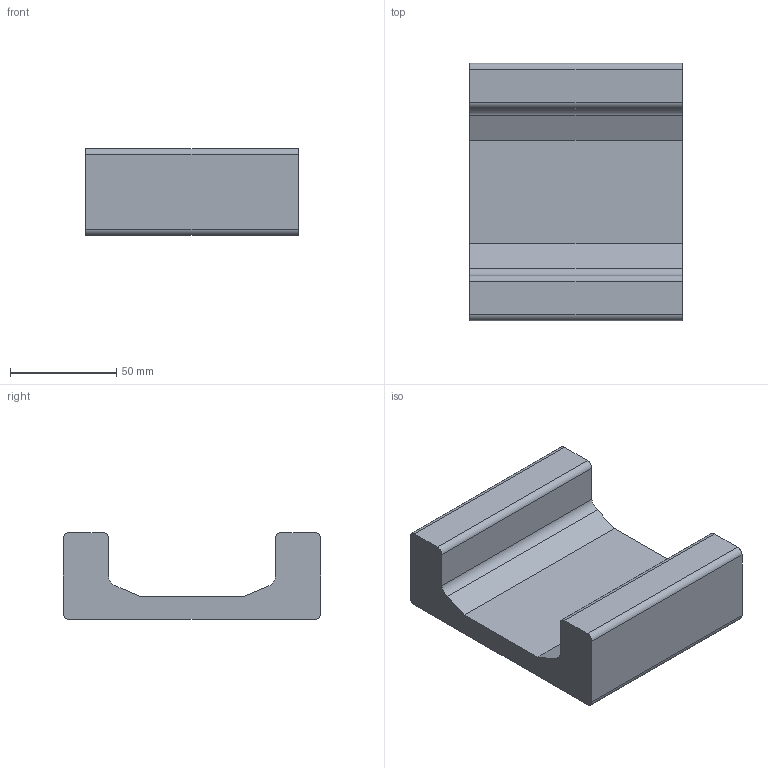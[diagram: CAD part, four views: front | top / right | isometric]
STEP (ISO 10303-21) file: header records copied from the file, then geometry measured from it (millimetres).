
FILE_DESCRIPTION((''),'2;1');
FILE_NAME('K:\Daten\KOMPONENTEN 2D + 3D\KOMPONENTEN Step-Files für extern\_ALFATEC_Führungsprofile UP_IPxxx0700_0800\ALFATEC_UP 080.0700.stp','2013-09-25T14:01:28',('hipp'),(''),'Autodesk Inventor 2013','Autodesk Inventor 2013','');
FILE_SCHEMA(('AUTOMOTIVE_DESIGN { 1 0 10303 214 1 1 1 1 }'));
Length unit declared in the file: millimetre
Products named in the file (1): ALFATEC UP 080.0700 (100mm)
Bounding box: 100 x 121.3 x 41 mm (x, y, z)
Volume: 268492.9 mm3; surface area: 41927.9 mm2
Topology: 1 solids, 1 shells, 20 faces, 54 edges, 36 vertices
Faces by surface type: plane 12, cylinder 8
Entity records: 660 total; most frequent: DIRECTION 112, CARTESIAN_POINT 111, ORIENTED_EDGE 108, EDGE_CURVE 54, VECTOR 38, LINE 38, AXIS2_PLACEMENT_3D 37, VERTEX_POINT 36
